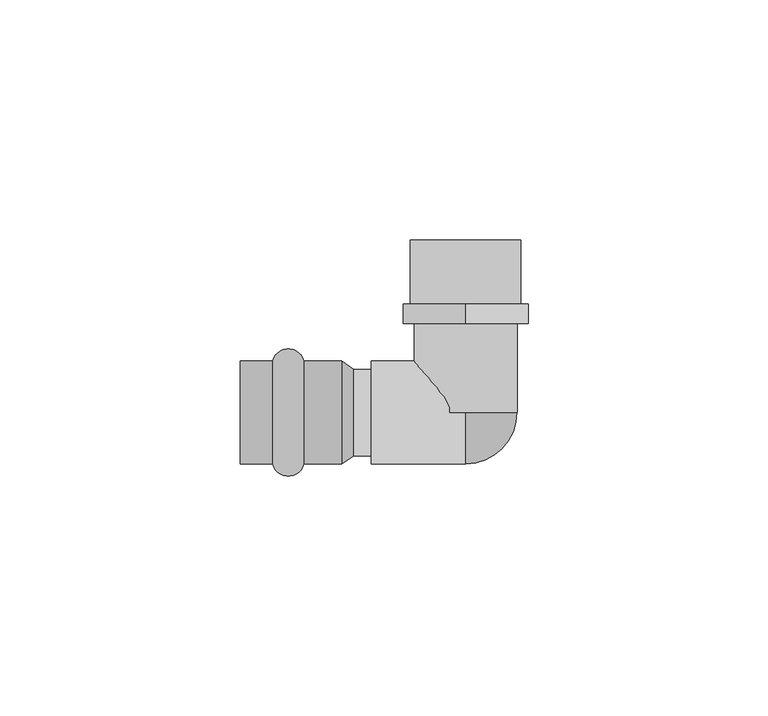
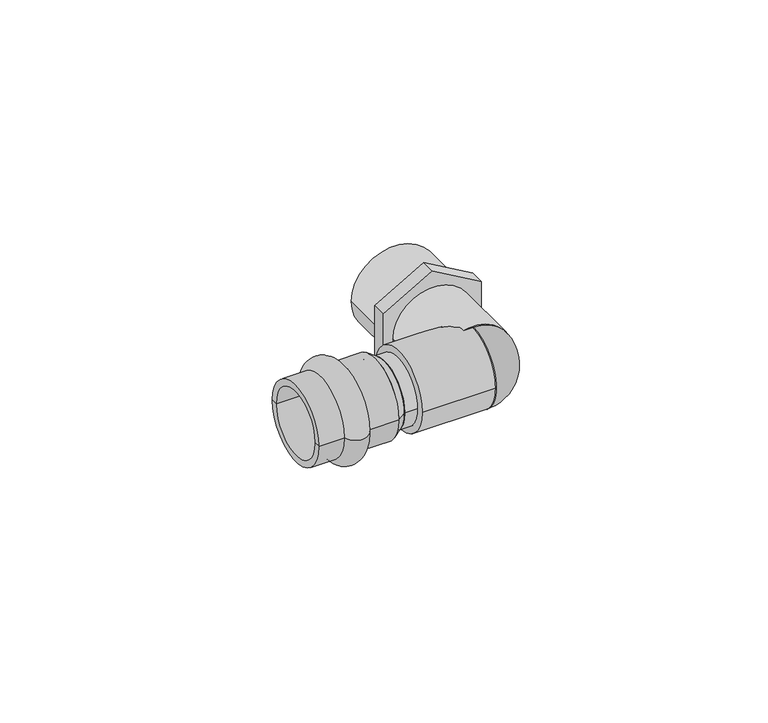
"""IFC4 building model written with IfcOpenShell, lengths in millimetres: pipe fitting geometry, VALTEC_VTi.953.I_Угольник с переходом на наружную резьбу нержавеющая сталь : VTi.953.I."""

from ifc_helpers import new_model, si_unit, point, frame, origin, origin_2d, place, context, project, spatial, polyline, circle_curve, ellipse_curve, trimmed, segment, composite_curve, outline, extrude, source, transform, mapped, element, save
from ifc_brep_helpers import plane_surface, cylinder_surface, revolved_surface, advanced_brep


def pipe_fitting_2506f6aa(model_context):
    return source(origin(), model_context, "Body", "SolidModel", [
        advanced_brep(
        [(-40.2287193, -10.75, 0.0), (-40.2287193, 10.75, 0.0), (-33.6712807, 10.75, 0.0), (-33.6712807, -10.75, 0.0), (-47.0, -10.75, 0.0), (-47.0, 10.75, 0.0), (-47.0, -9.0, 0.0), (-47.0, 9.0, 0.0), (-25.85, -9.0, 0.0), (-25.85, 9.0, 0.0), (-25.85, -10.75, 0.0), (-25.85, 10.75, 0.0)],
        [
            (0, 1, circle_curve(frame((-40.2287193, 0.0, 0.0), z_axis=(1.0, 0.0, 0.0), x_axis=(0.0, 1.0, 0.0)), 10.75)),
            (1, 2, circle_curve(frame((-36.95, 9.85, 0.0), z_axis=(0.0, 0.0, -1.0), x_axis=(1.0, 0.0, 0.0)), 3.4)),
            (2, 3, circle_curve(frame((-33.6712807, 0.0, 0.0), z_axis=(-1.0, 0.0, 0.0), x_axis=(0.0, 1.0, 0.0)), 10.75)),
            (3, 0, circle_curve(frame((-36.95, -9.85, 0.0), z_axis=(0.0, 0.0, -1.0), x_axis=(1.0, 0.0, 0.0)), 3.4)),
            (1, 0, circle_curve(frame((-40.2287193, 0.0, 0.0), z_axis=(1.0, 0.0, 0.0), x_axis=(0.0, 1.0, 0.0)), 10.75)),
            (3, 2, circle_curve(frame((-33.6712807, 0.0, 0.0), z_axis=(-1.0, 0.0, 0.0), x_axis=(0.0, 1.0, 0.0)), 10.75)),
            (4, 5, circle_curve(frame((-47.0, 0.0, 0.0), z_axis=(1.0, 0.0, 0.0), x_axis=(0.0, 1.0, 0.0)), 10.75)),
            (5, 1),
            (0, 4),
            (5, 4, circle_curve(frame((-47.0, 0.0, 0.0), z_axis=(1.0, 0.0, 0.0), x_axis=(0.0, 1.0, 0.0)), 10.75)),
            (6, 7, circle_curve(frame((-47.0, 0.0, 0.0), z_axis=(1.0, 0.0, 0.0), x_axis=(0.0, 1.0, 0.0)), 9.0)),
            (7, 5),
            (4, 6),
            (7, 6, circle_curve(frame((-47.0, 0.0, 0.0), z_axis=(1.0, 0.0, 0.0), x_axis=(0.0, 1.0, 0.0)), 9.0)),
            (8, 9, circle_curve(frame((-25.85, 0.0, 0.0), z_axis=(1.0, 0.0, 0.0), x_axis=(0.0, 1.0, 0.0)), 9.0)),
            (9, 7),
            (6, 8),
            (9, 8, circle_curve(frame((-25.85, 0.0, 0.0), z_axis=(1.0, 0.0, 0.0), x_axis=(0.0, 1.0, 0.0)), 9.0)),
            (10, 11, circle_curve(frame((-25.85, 0.0, 0.0), z_axis=(1.0, 0.0, 0.0), x_axis=(0.0, 1.0, 0.0)), 10.75)),
            (11, 9),
            (8, 10),
            (11, 10, circle_curve(frame((-25.85, 0.0, 0.0), z_axis=(1.0, 0.0, 0.0), x_axis=(0.0, 1.0, 0.0)), 10.75)),
            (2, 11),
            (10, 3),
        ],
        [
            revolved_surface(trimmed(ellipse_curve(frame((-36.95, 9.85, 0.0), z_axis=(0.0, 0.0, 1.0), x_axis=(1.0, 0.0, 0.0)), 3.4, 3.4), [point((-33.6712807, 10.75, 0.0))], [point((-40.2287193, 10.75, 0.0))], True, "CARTESIAN"), (-50.5364426, 0.0, 0.0), (-1.0, 0.0, 0.0)),
            cylinder_surface(frame((-50.5364426, 0.0, 0.0), z_axis=(-1.0, 0.0, 0.0), x_axis=(0.0, 1.0, 0.0)), 10.75),
            plane_surface(frame((-47.0, 0.0, 0.0), z_axis=(-1.0, 0.0, 0.0), x_axis=(0.0, 1.0, 0.0))),
            revolved_surface(polyline([(-47.0, 9.0, 0.0), (-25.85, 9.0, 0.0)]), (-50.5364426, 0.0, 0.0), (-1.0, 0.0, 0.0)),
            plane_surface(frame((-25.85, 0.0, 0.0), z_axis=(1.0, 0.0, 0.0), x_axis=(0.0, 1.0, 0.0))),
        ],
        [
            (0, [[1, 2, 3, 4]]),
            (0, [[5, -4, 6, -2]]),
            (1, [[7, 8, -1, 9]]),
            (1, [[10, -9, -5, -8]]),
            (2, [[11, 12, -7, 13]]),
            (2, [[14, -13, -10, -12]]),
            (3, [[15, 16, -11, 17]]),
            (3, [[18, -17, -14, -16]]),
            (4, [[19, 20, -15, 21]]),
            (4, [[22, -21, -18, -20]]),
            (1, [[-3, 23, -19, 24]]),
            (1, [[-6, -24, -22, -23]]),
        ],
    ),
        extrude(outline(composite_curve([segment(trimmed(circle_curve(origin_2d(), 11.5), [point((0.0, -11.5))], [point((0.0, 11.5))], False, "CARTESIAN"), True, "CONTINUOUS"), segment(trimmed(circle_curve(origin_2d(), 11.5), [point((0.0, 11.5))], [point((0.0, -11.5))], False, "CARTESIAN"), True, "CONTINUOUS")], self_intersect=False), holes=[composite_curve([segment(trimmed(circle_curve(origin_2d(), 10.0), [point((0.0, -10.0))], [point((0.0, 10.0))], True, "CARTESIAN"), True, "CONTINUOUS"), segment(trimmed(circle_curve(origin_2d(), 10.0), [point((0.0, 10.0))], [point((0.0, -10.0))], True, "CARTESIAN"), True, "CONTINUOUS")], self_intersect=False)]), frame((0.0, 22.5714286, 0.0), z_axis=(0.0, 1.0, 0.0), x_axis=(0.0, 0.0, 1.0)), (0.0, 0.0, 1.0), 13.4285714),
        extrude(outline(polyline([(15.011107, 0.0), (7.5055535, -13.0), (-7.5055535, -13.0), (-15.011107, 0.0), (-7.5055535, 13.0), (7.5055535, 13.0), (15.011107, 0.0)]), holes=[composite_curve([segment(trimmed(circle_curve(origin_2d(), 10.0), [point((0.0, -10.0))], [point((0.0, 10.0))], True, "CARTESIAN"), True, "CONTINUOUS"), segment(trimmed(circle_curve(origin_2d(), 10.0), [point((0.0, 10.0))], [point((0.0, -10.0))], True, "CARTESIAN"), True, "CONTINUOUS")], self_intersect=False)]), frame((0.0, 18.5428571, 0.0), z_axis=(0.0, 1.0, 0.0), x_axis=(0.0, 0.0, 1.0)), (0.0, 0.0, 1.0), 4.0285714),
        extrude(outline(composite_curve([segment(trimmed(circle_curve(origin_2d(), 10.75), [point((0.0, -10.75))], [point((0.0, 10.75))], False, "CARTESIAN"), True, "CONTINUOUS"), segment(trimmed(circle_curve(origin_2d(), 10.75), [point((0.0, 10.75))], [point((0.0, -10.75))], False, "CARTESIAN"), True, "CONTINUOUS")], self_intersect=False)), frame((0.0, 0.0, 0.0), z_axis=(0.0, 1.0, 0.0), x_axis=(0.0, 0.0, 1.0)), (0.0, 0.0, 1.0), 18.5428571),
        advanced_brep(
        [(0.0, 0.0, -10.75), (0.0, 0.0, 10.75)],
        [
            (0, 1, circle_curve(frame((0.0, 0.0, 0.0), z_axis=(-1.0, 0.0, 0.0), x_axis=(0.0, -1.0, 0.0)), 10.75)),
            (1, 0),
            (1, 0, circle_curve(frame((0.0, 0.0, 0.0), z_axis=(0.0, 1.0, 0.0), x_axis=(1.0, 0.0, 0.0)), 10.75)),
        ],
        [
            plane_surface(frame((0.0, 0.0, 17.7586047), z_axis=(-1.0, 0.0, 0.0), x_axis=(0.0, -1.0, 0.0))),
            plane_surface(frame((0.0, 0.0, 17.7586047), z_axis=(0.0, 1.0, 0.0), x_axis=(1.0, 0.0, 0.0))),
            revolved_surface(trimmed(ellipse_curve(frame((0.0, 0.0, 0.0), z_axis=(-1.0, 0.0, 0.0), x_axis=(0.0, -1.0, 0.0)), 10.75, 10.75), [point((0.0, 0.0, -10.75))], [point((0.0, 0.0, 10.75))], True, "CARTESIAN"), (0.0, 0.0, 17.7586047), (0.0, 0.0, 1.0)),
        ],
        [
            (0, [[1, 2]]),
            (1, [[3, -2]]),
            (2, [[-1, -3]]),
        ],
    ),
        extrude(outline(composite_curve([segment(trimmed(circle_curve(origin_2d(), 10.75), [point((-10.75, 0.0))], [point((10.75, 0.0))], False, "CARTESIAN"), True, "CONTINUOUS"), segment(trimmed(circle_curve(origin_2d(), 10.75), [point((10.75, 0.0))], [point((-10.75, 0.0))], False, "CARTESIAN"), True, "CONTINUOUS")], self_intersect=False)), frame((-19.6390217, 0.0, 0.0), z_axis=(1.0, 0.0, 0.0), x_axis=(0.0, 1.0, 0.0)), (0.0, 0.0, 1.0), 19.6390217),
        extrude(outline(composite_curve([segment(trimmed(circle_curve(origin_2d(), 9.0), [point((-9.0, 0.0))], [point((9.0, 0.0))], False, "CARTESIAN"), True, "CONTINUOUS"), segment(trimmed(circle_curve(origin_2d(), 9.0), [point((9.0, 0.0))], [point((-9.0, 0.0))], False, "CARTESIAN"), True, "CONTINUOUS")], self_intersect=False)), frame((-23.265, 0.0, 0.0), z_axis=(1.0, 0.0, 0.0), x_axis=(0.0, 1.0, 0.0)), (0.0, 0.0, 1.0), 3.6259783),
        advanced_brep(
        [(-25.85, -10.75, 0.0), (-25.85, 10.75, 0.0), (-23.265, -9.0, 0.0), (-23.265, 9.0, 0.0)],
        [
            (0, 1, circle_curve(frame((-25.85, 0.0, 0.0), z_axis=(-1.0, 0.0, 0.0), x_axis=(0.0, -1.0, 0.0)), 10.75)),
            (1, 0, circle_curve(frame((-25.85, 0.0, 0.0), z_axis=(-1.0, 0.0, 0.0), x_axis=(0.0, 1.0, 0.0)), 10.75)),
            (2, 3, circle_curve(frame((-23.265, 0.0, 0.0), z_axis=(1.0, 0.0, 0.0), x_axis=(0.0, 1.0, 0.0)), 9.0)),
            (3, 2, circle_curve(frame((-23.265, 0.0, 0.0), z_axis=(1.0, 0.0, 0.0), x_axis=(0.0, -1.0, 0.0)), 9.0)),
            (2, 0),
            (1, 3),
        ],
        [
            plane_surface(frame((-25.85, 0.0, 0.0), z_axis=(-1.0, 0.0, 0.0), x_axis=(0.0, 0.0, -1.0))),
            plane_surface(frame((-23.265, 0.0, 0.0), z_axis=(1.0, 0.0, 0.0), x_axis=(0.0, 0.0, -1.0))),
            revolved_surface(polyline([(-23.265, -8.999999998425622, 0.0), (-25.85, -10.75, 0.0)]), (-9.9707143, 0.0, 0.0), (-1.0, 0.0, 0.0)),
            revolved_surface(polyline([(-23.265, 8.999999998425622, 0.0), (-25.85, 10.75, 0.0)]), (-9.9707143, 0.0, 0.0), (-1.0, 0.0, 0.0)),
        ],
        [
            (0, [[1, 2]]),
            (1, [[3, 4]]),
            (2, [[-3, 5, -2, 6]]),
            (3, [[-4, -6, -1, -5]]),
        ],
    ),
    ])


if __name__ == "__main__":
    model = new_model("IFC4")
    model_context = context("Model", 3, world=origin())
    ifc_project = project(units=[si_unit("LENGTHUNIT", "METRE", prefix="MILLI")], contexts=[model_context])
    site = spatial("IfcSite", under=ifc_project)
    building = spatial("IfcBuilding", under=site)
    placement = place(None, origin())
    pipe_fitting_shape = pipe_fitting_2506f6aa(model_context)
    element("IfcPipeFitting", 1, ObjectType="VALTEC_VTi.953.I_Угольник с переходом на наружную резьбу нержавеющая сталь : VTi.953.I", at=placement, inside=building, context=model_context, shape_type="MappedRepresentation", body=[
        mapped(pipe_fitting_shape, transform((0.0, 0.0, 0.0), x_axis=(1.0, 0.0, 0.0), y_axis=(0.0, 1.0, 0.0), z_axis=(0.0, 0.0, 1.0))),
    ])
    save(model, "model.ifc")
